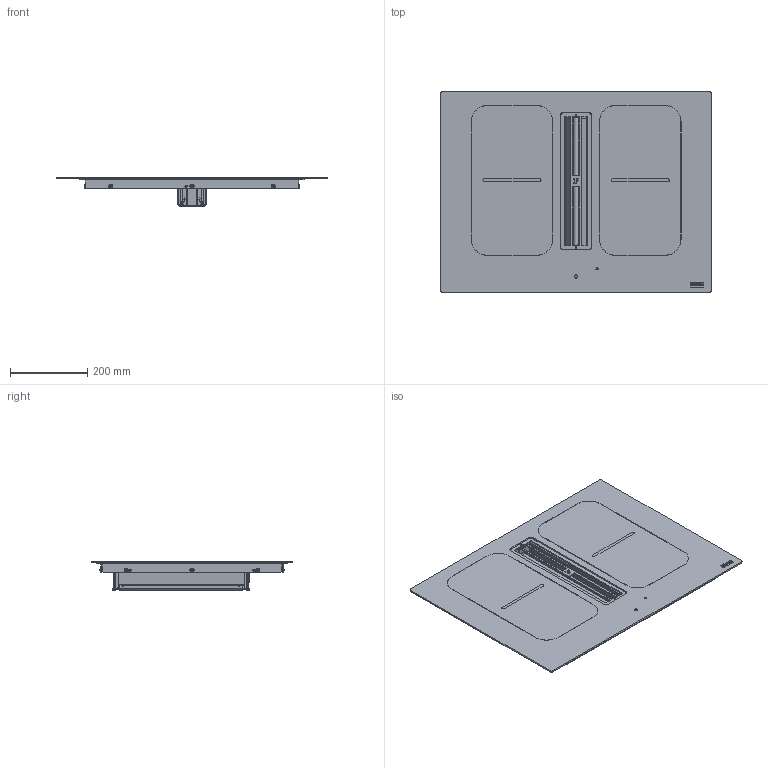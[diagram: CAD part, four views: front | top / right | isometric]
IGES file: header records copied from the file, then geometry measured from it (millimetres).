
Global section: file name: F:\_CONVERSIONE_CAD_2024_2025\_2024\03_3D kits new\Hob Extractors\340.0705.229_Smart 2gether Black Lines\3D001_Smart 2gether Black Lines.igs; native system: Rhinoceros ( Feb 13 2024 ); preprocessor: Trout Lake IGES 012 Feb 13 2024; date: 240328.103909; units: millimetre
Bounding box: 699.98 x 519.98 x 75.44 mm (x, y, z)
Surface area: 1150378.2 mm2 (no closed solid volume)
Topology: 0 solids, 0 shells, 3774 faces, 23707 edges, 23693 vertices
Faces by surface type: bspline 3774
